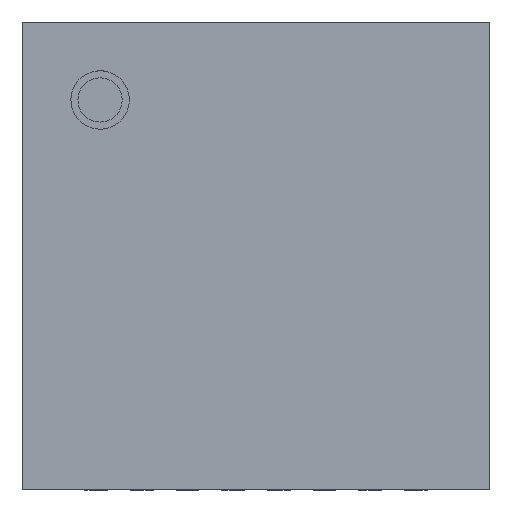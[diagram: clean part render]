
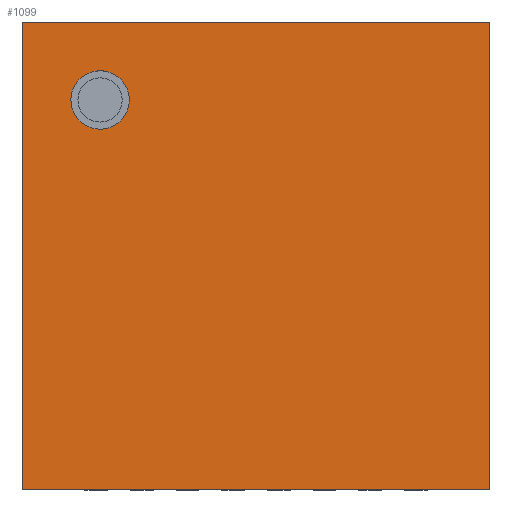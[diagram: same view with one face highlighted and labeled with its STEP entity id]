
A CAD part, top view. The second image highlights one B-rep face of the part: STEP entity #1099.
In plain terms, the highlighted planar face has unit normal (0, 0, 1).
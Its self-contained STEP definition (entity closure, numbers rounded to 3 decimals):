
#5 = DIRECTION ( 'NONE',  ( 0., 0., -1. ) ) ;
#46 = AXIS2_PLACEMENT_3D ( 'NONE', #2042, #1824, #694 ) ;
#58 = FACE_OUTER_BOUND ( 'NONE', #2287, .T. ) ;
#156 = CARTESIAN_POINT ( 'NONE',  ( 4.1, 0., 0.8 ) ) ;
#175 = AXIS2_PLACEMENT_3D ( 'NONE', #2132, #5, #584 ) ;
#237 = EDGE_CURVE ( 'NONE', #1912, #1207, #332, .T. ) ;
#254 = CARTESIAN_POINT ( 'NONE',  ( 0.427, 3.417, 0.8 ) ) ;
#265 = CIRCLE ( 'NONE', #2278, 0.256 ) ;
#296 = VECTOR ( 'NONE', #1565, 1000. ) ;
#332 = LINE ( 'NONE', #1938, #296 ) ;
#426 = CARTESIAN_POINT ( 'NONE',  ( 4.1, 4.1, 0.8 ) ) ;
#440 = CARTESIAN_POINT ( 'NONE',  ( 0.683, 3.417, 0.8 ) ) ;
#488 = CARTESIAN_POINT ( 'NONE',  ( 4.1, 0., 0.8 ) ) ;
#541 = LINE ( 'NONE', #488, #1407 ) ;
#584 = DIRECTION ( 'NONE',  ( 1., 0., 0. ) ) ;
#600 = EDGE_CURVE ( 'NONE', #1207, #847, #656, .T. ) ;
#604 = DIRECTION ( 'NONE',  ( 1., 0., 0. ) ) ;
#634 = CARTESIAN_POINT ( 'NONE',  ( 0., 4.1, 0.8 ) ) ;
#656 = LINE ( 'NONE', #842, #1628 ) ;
#694 = DIRECTION ( 'NONE',  ( 1., 0., 0. ) ) ;
#699 = FACE_BOUND ( 'NONE', #2303, .T. ) ;
#808 = DIRECTION ( 'NONE',  ( 0., 0., -1. ) ) ;
#842 = CARTESIAN_POINT ( 'NONE',  ( 0., 0., 0.8 ) ) ;
#847 = VERTEX_POINT ( 'NONE', #156 ) ;
#909 = ORIENTED_EDGE ( 'NONE', *, *, #2170, .T. ) ;
#916 = ORIENTED_EDGE ( 'NONE', *, *, #237, .T. ) ;
#996 = ORIENTED_EDGE ( 'NONE', *, *, #1360, .F. ) ;
#1054 = EDGE_CURVE ( 'NONE', #1569, #2289, #265, .T. ) ;
#1099 = ADVANCED_FACE ( 'NONE', ( #699, #58 ), #1794, .T. ) ;
#1129 = VECTOR ( 'NONE', #604, 1000. ) ;
#1157 = EDGE_CURVE ( 'NONE', #1375, #847, #541, .T. ) ;
#1165 = CARTESIAN_POINT ( 'NONE',  ( 0.94, 3.417, 0.8 ) ) ;
#1207 = VERTEX_POINT ( 'NONE', #1848 ) ;
#1360 = EDGE_CURVE ( 'NONE', #1912, #1375, #1627, .T. ) ;
#1375 = VERTEX_POINT ( 'NONE', #426 ) ;
#1407 = VECTOR ( 'NONE', #1831, 1000. ) ;
#1431 = CIRCLE ( 'NONE', #175, 0.256 ) ;
#1490 = ORIENTED_EDGE ( 'NONE', *, *, #1054, .T. ) ;
#1565 = DIRECTION ( 'NONE',  ( 0., -1., 0. ) ) ;
#1569 = VERTEX_POINT ( 'NONE', #254 ) ;
#1581 = DIRECTION ( 'NONE',  ( 1., 0., 0. ) ) ;
#1627 = LINE ( 'NONE', #634, #1129 ) ;
#1628 = VECTOR ( 'NONE', #2243, 1000. ) ;
#1794 = PLANE ( 'NONE',  #46 ) ;
#1824 = DIRECTION ( 'NONE',  ( 0., 0., 1. ) ) ;
#1827 = ORIENTED_EDGE ( 'NONE', *, *, #600, .T. ) ;
#1831 = DIRECTION ( 'NONE',  ( 0., -1., 0. ) ) ;
#1848 = CARTESIAN_POINT ( 'NONE',  ( 0., 0., 0.8 ) ) ;
#1912 = VERTEX_POINT ( 'NONE', #2306 ) ;
#1924 = ORIENTED_EDGE ( 'NONE', *, *, #1157, .F. ) ;
#1938 = CARTESIAN_POINT ( 'NONE',  ( 0., 0., 0.8 ) ) ;
#2042 = CARTESIAN_POINT ( 'NONE',  ( 0., 0., 0.8 ) ) ;
#2132 = CARTESIAN_POINT ( 'NONE',  ( 0.683, 3.417, 0.8 ) ) ;
#2170 = EDGE_CURVE ( 'NONE', #2289, #1569, #1431, .T. ) ;
#2243 = DIRECTION ( 'NONE',  ( 1., 0., 0. ) ) ;
#2278 = AXIS2_PLACEMENT_3D ( 'NONE', #440, #808, #1581 ) ;
#2287 = EDGE_LOOP ( 'NONE', ( #1924, #996, #916, #1827 ) ) ;
#2289 = VERTEX_POINT ( 'NONE', #1165 ) ;
#2303 = EDGE_LOOP ( 'NONE', ( #909, #1490 ) ) ;
#2306 = CARTESIAN_POINT ( 'NONE',  ( 0., 4.1, 0.8 ) ) ;
